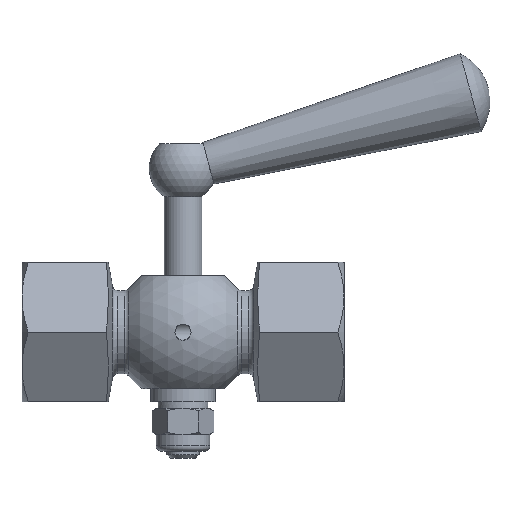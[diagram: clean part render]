
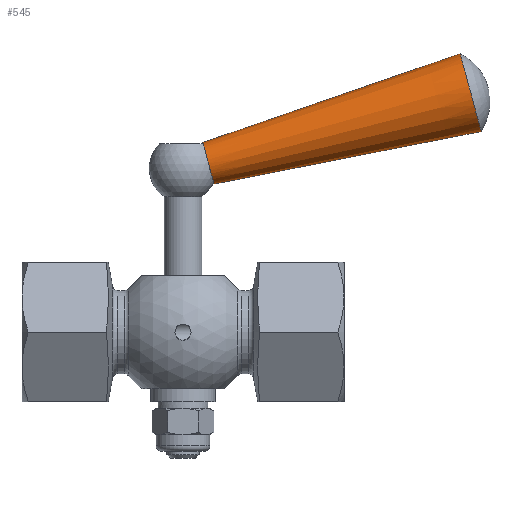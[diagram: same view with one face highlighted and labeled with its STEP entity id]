
A CAD part, left-side view. The second image highlights one B-rep face of the part: STEP entity #545.
In plain terms, the highlighted conical face has half-angle 3.956 degrees and reference radius 5.75 mm.
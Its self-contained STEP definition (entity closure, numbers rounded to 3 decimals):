
#545=ADVANCED_FACE('',(#1223,#1225),#1227,.T.);
#1223=FACE_OUTER_BOUND('',#1224,.T.);
#1224=EDGE_LOOP('',(#6560));
#1225=FACE_OUTER_BOUND('',#1226,.T.);
#1226=EDGE_LOOP('',(#6561));
#1227=CONICAL_SURFACE('',#1228,5.75,0.069);
#1228=AXIS2_PLACEMENT_3D('',#1229,#1230,#1231);
#1229=CARTESIAN_POINT('',(0.,-29.173,38.053));
#1230=DIRECTION('',(0.,-0.966,0.26));
#1231=DIRECTION('',(0.,-0.26,-0.966));
#6560=ORIENTED_EDGE('',*,*,#9254,.F.);
#6561=ORIENTED_EDGE('',*,*,#9266,.T.);
#9254=EDGE_CURVE('',#10357,#10357,#10358,.T.);
#9266=EDGE_CURVE('',#10378,#10378,#10379,.T.);
#10357=VERTEX_POINT('',#12249);
#10358=CIRCLE('',#12250,4.);
#10378=VERTEX_POINT('',#12371);
#10379=CIRCLE('',#12372,7.5);
#12249=CARTESIAN_POINT('',(0.,-3.699,35.331));
#12250=AXIS2_PLACEMENT_3D('',#12251,#12252,#12253);
#12251=CARTESIAN_POINT('',(0.,-4.74,31.468));
#12252=DIRECTION('',(0.,0.966,-0.26));
#12253=DIRECTION('',(0.,0.26,0.966));
#12371=CARTESIAN_POINT('',(0.,-51.654,51.878));
#12372=AXIS2_PLACEMENT_3D('',#12373,#12374,#12375);
#12373=CARTESIAN_POINT('',(0.,-53.606,44.637));
#12374=DIRECTION('',(0.,0.966,-0.26));
#12375=DIRECTION('',(0.,0.26,0.966));
